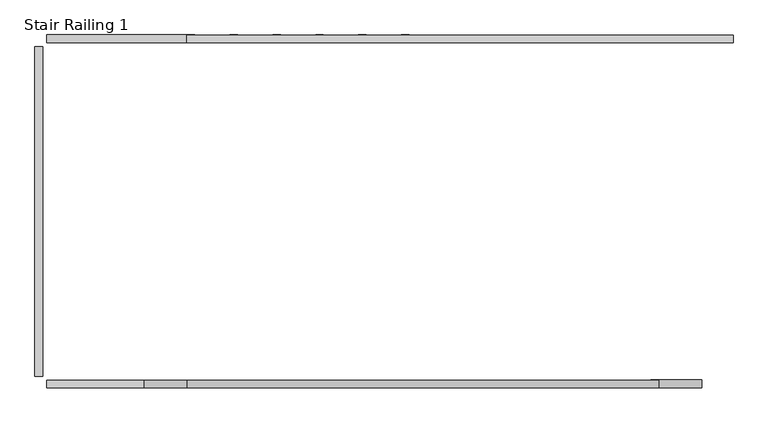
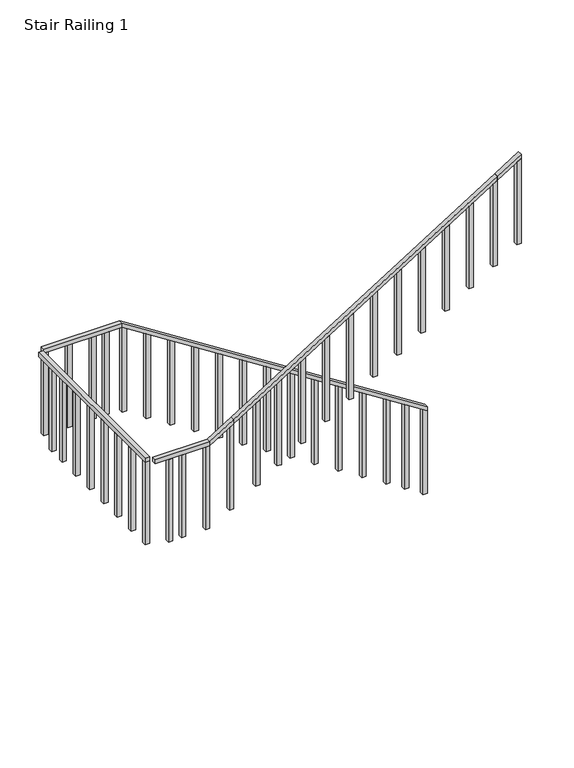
"""IFC4 building model written with IfcOpenShell, lengths in millimetres: railing geometry, Stair Railing 1."""

from ifc_helpers import new_model, si_unit, frame, origin, place, context, project, spatial, polyline, outline, extrude, source, transform, mapped, element, save


def stair_railing_1_abf2b38f(model_context):
    return source(origin(), model_context, "Body", "SweptSolid", [
        extrude(outline(polyline([(9002.8888889, -65613.320296), (8952.0888889, -65613.320296), (6677.3777778, -62054.8461136), (6728.1777778, -62054.8461136), (9002.8888889, -65613.320296)])), frame((0.0, 33673.381749, 0.0), z_axis=(0.0, 1.0, 0.0), x_axis=(0.0, 0.0, 1.0)), (0.0, 0.0, 1.0), 50.8),
        extrude(outline(polyline([(6709.8510566, -62105.6461136), (5661.3777778, -62105.6461136), (5661.3777778, -62054.8461136), (6677.3777778, -62054.8461136), (6709.8510566, -62105.6461136)])), frame((0.0, 33673.381749, 0.0), z_axis=(0.0, 1.0, 0.0), x_axis=(0.0, 0.0, 1.0)), (0.0, 0.0, 1.0), 50.8),
        extrude(outline(polyline([(6848.6532872, -62322.7832048), (5800.1800084, -62322.7832048), (5800.1800084, -62271.9832048), (6816.1800084, -62271.9832048), (6848.6532872, -62322.7832048)])), frame((0.0, 33673.381749, 0.0), z_axis=(0.0, 1.0, 0.0), x_axis=(0.0, 0.0, 1.0)), (0.0, 0.0, 1.0), 50.8),
        extrude(outline(polyline([(6987.4555178, -62539.920296), (5938.9822389, -62539.920296), (5938.9822389, -62489.120296), (6954.9822389, -62489.120296), (6987.4555178, -62539.920296)])), frame((0.0, 33673.381749, 0.0), z_axis=(0.0, 1.0, 0.0), x_axis=(0.0, 0.0, 1.0)), (0.0, 0.0, 1.0), 50.8),
        extrude(outline(polyline([(7166.0585515, -62819.320296), (6117.5852727, -62819.320296), (6117.5852727, -62768.520296), (7133.5852727, -62768.520296), (7166.0585515, -62819.320296)])), frame((0.0, 33673.381749, 0.0), z_axis=(0.0, 1.0, 0.0), x_axis=(0.0, 0.0, 1.0)), (0.0, 0.0, 1.0), 50.8),
        extrude(outline(polyline([(7344.6615853, -63098.720296), (6296.1883064, -63098.720296), (6296.1883064, -63047.920296), (7312.1883064, -63047.920296), (7344.6615853, -63098.720296)])), frame((0.0, 33673.381749, 0.0), z_axis=(0.0, 1.0, 0.0), x_axis=(0.0, 0.0, 1.0)), (0.0, 0.0, 1.0), 50.8),
        extrude(outline(polyline([(7523.264619, -63378.120296), (6474.7913401, -63378.120296), (6474.7913401, -63327.320296), (7490.7913401, -63327.320296), (7523.264619, -63378.120296)])), frame((0.0, 33673.381749, 0.0), z_axis=(0.0, 1.0, 0.0), x_axis=(0.0, 0.0, 1.0)), (0.0, 0.0, 1.0), 50.8),
        extrude(outline(polyline([(7701.8676527, -63657.520296), (6653.3943739, -63657.520296), (6653.3943739, -63606.720296), (7669.3943739, -63606.720296), (7701.8676527, -63657.520296)])), frame((0.0, 33673.381749, 0.0), z_axis=(0.0, 1.0, 0.0), x_axis=(0.0, 0.0, 1.0)), (0.0, 0.0, 1.0), 50.8),
        extrude(outline(polyline([(7880.4706865, -63936.920296), (6831.9974076, -63936.920296), (6831.9974076, -63886.120296), (7847.9974076, -63886.120296), (7880.4706865, -63936.920296)])), frame((0.0, 33673.381749, 0.0), z_axis=(0.0, 1.0, 0.0), x_axis=(0.0, 0.0, 1.0)), (0.0, 0.0, 1.0), 50.8),
        extrude(outline(polyline([(8059.0737202, -64216.320296), (7010.6004413, -64216.320296), (7010.6004413, -64165.520296), (8026.6004413, -64165.520296), (8059.0737202, -64216.320296)])), frame((0.0, 33673.381749, 0.0), z_axis=(0.0, 1.0, 0.0), x_axis=(0.0, 0.0, 1.0)), (0.0, 0.0, 1.0), 50.8),
        extrude(outline(polyline([(8237.6767539, -64495.720296), (7189.2034751, -64495.720296), (7189.2034751, -64444.920296), (8205.2034751, -64444.920296), (8237.6767539, -64495.720296)])), frame((0.0, 33673.381749, 0.0), z_axis=(0.0, 1.0, 0.0), x_axis=(0.0, 0.0, 1.0)), (0.0, 0.0, 1.0), 50.8),
        extrude(outline(polyline([(8416.2797877, -64775.120296), (7367.8065088, -64775.120296), (7367.8065088, -64724.320296), (8383.8065088, -64724.320296), (8416.2797877, -64775.120296)])), frame((0.0, 33673.381749, 0.0), z_axis=(0.0, 1.0, 0.0), x_axis=(0.0, 0.0, 1.0)), (0.0, 0.0, 1.0), 50.8),
        extrude(outline(polyline([(8594.8828214, -65054.520296), (7546.4095426, -65054.520296), (7546.4095426, -65003.720296), (8562.4095426, -65003.720296), (8594.8828214, -65054.520296)])), frame((0.0, 33673.381749, 0.0), z_axis=(0.0, 1.0, 0.0), x_axis=(0.0, 0.0, 1.0)), (0.0, 0.0, 1.0), 50.8),
        extrude(outline(polyline([(8773.4858552, -65333.920296), (7725.0125763, -65333.920296), (7725.0125763, -65283.120296), (8741.0125763, -65283.120296), (8773.4858552, -65333.920296)])), frame((0.0, 33673.381749, 0.0), z_axis=(0.0, 1.0, 0.0), x_axis=(0.0, 0.0, 1.0)), (0.0, 0.0, 1.0), 50.8),
        extrude(outline(polyline([(8952.0888889, -65613.320296), (7903.61561, -65613.320296), (7903.61561, -65562.520296), (8919.61561, -65562.520296), (8952.0888889, -65613.320296)])), frame((0.0, 33673.381749, 0.0), z_axis=(0.0, 1.0, 0.0), x_axis=(0.0, 0.0, 1.0)), (0.0, 0.0, 1.0), 50.8),
        extrude(outline(polyline([(-66527.720296, 33673.381749), (-66527.720296, 33724.181749), (-65613.320296, 33724.181749), (-65613.320296, 33673.381749), (-66527.720296, 33673.381749)])), frame((0.0, 0.0, 8952.0888889), z_axis=(0.0, 0.0, 1.0), x_axis=(1.0, 0.0, 0.0)), (0.0, 0.0, 1.0), 50.8),
        extrude(outline(polyline([(-65765.720296, 33673.381749), (-65816.520296, 33673.381749), (-65816.520296, 33724.181749), (-65765.720296, 33724.181749), (-65765.720296, 33673.381749)])), frame((0.0, 0.0, 7936.0888889), z_axis=(0.0, 0.0, 1.0), x_axis=(1.0, 0.0, 0.0)), (0.0, 0.0, 1.0), 1016.0),
        extrude(outline(polyline([(-65918.120296, 33673.381749), (-65968.920296, 33673.381749), (-65968.920296, 33724.181749), (-65918.120296, 33724.181749), (-65918.120296, 33673.381749)])), frame((0.0, 0.0, 7936.0888889), z_axis=(0.0, 0.0, 1.0), x_axis=(1.0, 0.0, 0.0)), (0.0, 0.0, 1.0), 1016.0),
        extrude(outline(polyline([(-66197.520296, 33673.381749), (-66248.320296, 33673.381749), (-66248.320296, 33724.181749), (-66197.520296, 33724.181749), (-66197.520296, 33673.381749)])), frame((0.0, 0.0, 7936.0888889), z_axis=(0.0, 0.0, 1.0), x_axis=(1.0, 0.0, 0.0)), (0.0, 0.0, 1.0), 1016.0),
        extrude(outline(polyline([(-66476.920296, 33673.381749), (-66527.720296, 33673.381749), (-66527.720296, 33724.181749), (-66476.920296, 33724.181749), (-66476.920296, 33673.381749)])), frame((0.0, 0.0, 7936.0888889), z_axis=(0.0, 0.0, 1.0), x_axis=(1.0, 0.0, 0.0)), (0.0, 0.0, 1.0), 1016.0),
        extrude(outline(polyline([(-66553.120296, 31497.8982705), (-66603.920296, 31497.8982705), (-66603.920296, 33647.981749), (-66553.120296, 33647.981749), (-66553.120296, 31497.8982705)])), frame((0.0, 0.0, 8952.0888889), z_axis=(0.0, 0.0, 1.0), x_axis=(1.0, 0.0, 0.0)), (0.0, 0.0, 1.0), 50.8),
        extrude(outline(polyline([(-66553.120296, 33436.5400097), (-66553.120296, 33385.7400097), (-66603.920296, 33385.7400097), (-66603.920296, 33436.5400097), (-66553.120296, 33436.5400097)])), frame((0.0, 0.0, 7936.0888889), z_axis=(0.0, 0.0, 1.0), x_axis=(1.0, 0.0, 0.0)), (0.0, 0.0, 1.0), 1016.0),
        extrude(outline(polyline([(-66553.120296, 33225.0982705), (-66553.120296, 33174.2982705), (-66603.920296, 33174.2982705), (-66603.920296, 33225.0982705), (-66553.120296, 33225.0982705)])), frame((0.0, 0.0, 7936.0888889), z_axis=(0.0, 0.0, 1.0), x_axis=(1.0, 0.0, 0.0)), (0.0, 0.0, 1.0), 1016.0),
        extrude(outline(polyline([(-66553.120296, 32945.6982705), (-66553.120296, 32894.8982705), (-66603.920296, 32894.8982705), (-66603.920296, 32945.6982705), (-66553.120296, 32945.6982705)])), frame((0.0, 0.0, 7936.0888889), z_axis=(0.0, 0.0, 1.0), x_axis=(1.0, 0.0, 0.0)), (0.0, 0.0, 1.0), 1016.0),
        extrude(outline(polyline([(-66553.120296, 32666.2982705), (-66553.120296, 32615.4982705), (-66603.920296, 32615.4982705), (-66603.920296, 32666.2982705), (-66553.120296, 32666.2982705)])), frame((0.0, 0.0, 7936.0888889), z_axis=(0.0, 0.0, 1.0), x_axis=(1.0, 0.0, 0.0)), (0.0, 0.0, 1.0), 1016.0),
        extrude(outline(polyline([(-66553.120296, 32386.8982705), (-66553.120296, 32336.0982705), (-66603.920296, 32336.0982705), (-66603.920296, 32386.8982705), (-66553.120296, 32386.8982705)])), frame((0.0, 0.0, 7936.0888889), z_axis=(0.0, 0.0, 1.0), x_axis=(1.0, 0.0, 0.0)), (0.0, 0.0, 1.0), 1016.0),
        extrude(outline(polyline([(-66553.120296, 32107.4982705), (-66553.120296, 32056.6982705), (-66603.920296, 32056.6982705), (-66603.920296, 32107.4982705), (-66553.120296, 32107.4982705)])), frame((0.0, 0.0, 7936.0888889), z_axis=(0.0, 0.0, 1.0), x_axis=(1.0, 0.0, 0.0)), (0.0, 0.0, 1.0), 1016.0),
        extrude(outline(polyline([(-66553.120296, 31828.0982705), (-66553.120296, 31777.2982705), (-66603.920296, 31777.2982705), (-66603.920296, 31828.0982705), (-66553.120296, 31828.0982705)])), frame((0.0, 0.0, 7936.0888889), z_axis=(0.0, 0.0, 1.0), x_axis=(1.0, 0.0, 0.0)), (0.0, 0.0, 1.0), 1016.0),
        extrude(outline(polyline([(-66553.120296, 31548.6982705), (-66553.120296, 31497.8982705), (-66603.920296, 31497.8982705), (-66603.920296, 31548.6982705), (-66553.120296, 31548.6982705)])), frame((0.0, 0.0, 7936.0888889), z_axis=(0.0, 0.0, 1.0), x_axis=(1.0, 0.0, 0.0)), (0.0, 0.0, 1.0), 1016.0),
        extrude(outline(polyline([(-65892.720296, 31472.4982705), (-65892.720296, 31421.6982705), (-66527.720296, 31421.6982705), (-66527.720296, 31472.4982705), (-65892.720296, 31472.4982705)])), frame((0.0, 0.0, 8952.0888889), z_axis=(0.0, 0.0, 1.0), x_axis=(1.0, 0.0, 0.0)), (0.0, 0.0, 1.0), 50.8),
        extrude(outline(polyline([(-66375.320296, 31472.4982705), (-66324.520296, 31472.4982705), (-66324.520296, 31421.6982705), (-66375.320296, 31421.6982705), (-66375.320296, 31472.4982705)])), frame((0.0, 0.0, 7936.0888889), z_axis=(0.0, 0.0, 1.0), x_axis=(1.0, 0.0, 0.0)), (0.0, 0.0, 1.0), 1016.0),
        extrude(outline(polyline([(-66222.920296, 31472.4982705), (-66172.120296, 31472.4982705), (-66172.120296, 31421.6982705), (-66222.920296, 31421.6982705), (-66222.920296, 31472.4982705)])), frame((0.0, 0.0, 7936.0888889), z_axis=(0.0, 0.0, 1.0), x_axis=(1.0, 0.0, 0.0)), (0.0, 0.0, 1.0), 1016.0),
        extrude(outline(polyline([(-65943.520296, 31472.4982705), (-65892.720296, 31472.4982705), (-65892.720296, 31421.6982705), (-65943.520296, 31421.6982705), (-65943.520296, 31472.4982705)])), frame((0.0, 0.0, 7936.0888889), z_axis=(0.0, 0.0, 1.0), x_axis=(1.0, 0.0, 0.0)), (0.0, 0.0, 1.0), 1016.0),
        extrude(outline(polyline([(9127.0666667, -65613.320296), (9177.8666667, -65613.320296), (9002.8888889, -65892.720296), (8952.0888889, -65892.720296), (9127.0666667, -65613.320296)])), frame((0.0, 31421.6982705, 0.0), z_axis=(0.0, 1.0, 0.0), x_axis=(0.0, 0.0, 1.0)), (0.0, 0.0, 1.0), 50.8),
        extrude(outline(polyline([(9095.2525253, -65664.120296), (8079.2525253, -65664.120296), (8079.2525253, -65613.320296), (9127.0666667, -65613.320296), (9095.2525253, -65664.120296)])), frame((0.0, 31421.6982705, 0.0), z_axis=(0.0, 1.0, 0.0), x_axis=(0.0, 0.0, 1.0)), (0.0, 0.0, 1.0), 50.8),
        extrude(outline(polyline([(11051.8222222, -62539.920296), (11102.6222222, -62539.920296), (9177.8666667, -65613.320296), (9127.0666667, -65613.320296), (11051.8222222, -62539.920296)])), frame((0.0, 31421.6982705, 0.0), z_axis=(0.0, 1.0, 0.0), x_axis=(0.0, 0.0, 1.0)), (0.0, 0.0, 1.0), 50.8),
        extrude(outline(polyline([(9286.1373737, -65359.320296), (8270.1373737, -65359.320296), (8270.1373737, -65308.520296), (9317.9515152, -65308.520296), (9286.1373737, -65359.320296)])), frame((0.0, 31421.6982705, 0.0), z_axis=(0.0, 1.0, 0.0), x_axis=(0.0, 0.0, 1.0)), (0.0, 0.0, 1.0), 50.8),
        extrude(outline(polyline([(9445.2080808, -65105.320296), (8429.2080808, -65105.320296), (8429.2080808, -65054.520296), (9477.0222222, -65054.520296), (9445.2080808, -65105.320296)])), frame((0.0, 31421.6982705, 0.0), z_axis=(0.0, 1.0, 0.0), x_axis=(0.0, 0.0, 1.0)), (0.0, 0.0, 1.0), 50.8),
        extrude(outline(polyline([(9620.1858586, -64825.920296), (8604.1858586, -64825.920296), (8604.1858586, -64775.120296), (9652.0, -64775.120296), (9620.1858586, -64825.920296)])), frame((0.0, 31421.6982705, 0.0), z_axis=(0.0, 1.0, 0.0), x_axis=(0.0, 0.0, 1.0)), (0.0, 0.0, 1.0), 50.8),
        extrude(outline(polyline([(9795.1636364, -64546.520296), (8779.1636364, -64546.520296), (8779.1636364, -64495.720296), (9826.9777778, -64495.720296), (9795.1636364, -64546.520296)])), frame((0.0, 31421.6982705, 0.0), z_axis=(0.0, 1.0, 0.0), x_axis=(0.0, 0.0, 1.0)), (0.0, 0.0, 1.0), 50.8),
        extrude(outline(polyline([(9970.1414141, -64267.120296), (8954.1414141, -64267.120296), (8954.1414141, -64216.320296), (10001.9555556, -64216.320296), (9970.1414141, -64267.120296)])), frame((0.0, 31421.6982705, 0.0), z_axis=(0.0, 1.0, 0.0), x_axis=(0.0, 0.0, 1.0)), (0.0, 0.0, 1.0), 50.8),
        extrude(outline(polyline([(10145.1191919, -63987.720296), (9129.1191919, -63987.720296), (9129.1191919, -63936.920296), (10176.9333333, -63936.920296), (10145.1191919, -63987.720296)])), frame((0.0, 31421.6982705, 0.0), z_axis=(0.0, 1.0, 0.0), x_axis=(0.0, 0.0, 1.0)), (0.0, 0.0, 1.0), 50.8),
        extrude(outline(polyline([(10320.0969697, -63708.320296), (9304.0969697, -63708.320296), (9304.0969697, -63657.520296), (10351.9111111, -63657.520296), (10320.0969697, -63708.320296)])), frame((0.0, 31421.6982705, 0.0), z_axis=(0.0, 1.0, 0.0), x_axis=(0.0, 0.0, 1.0)), (0.0, 0.0, 1.0), 50.8),
        extrude(outline(polyline([(10495.0747475, -63428.920296), (9479.0747475, -63428.920296), (9479.0747475, -63378.120296), (10526.8888889, -63378.120296), (10495.0747475, -63428.920296)])), frame((0.0, 31421.6982705, 0.0), z_axis=(0.0, 1.0, 0.0), x_axis=(0.0, 0.0, 1.0)), (0.0, 0.0, 1.0), 50.8),
        extrude(outline(polyline([(10670.0525253, -63149.520296), (9654.0525253, -63149.520296), (9654.0525253, -63098.720296), (10701.8666667, -63098.720296), (10670.0525253, -63149.520296)])), frame((0.0, 31421.6982705, 0.0), z_axis=(0.0, 1.0, 0.0), x_axis=(0.0, 0.0, 1.0)), (0.0, 0.0, 1.0), 50.8),
        extrude(outline(polyline([(10845.030303, -62870.120296), (9829.030303, -62870.120296), (9829.030303, -62819.320296), (10876.8444444, -62819.320296), (10845.030303, -62870.120296)])), frame((0.0, 31421.6982705, 0.0), z_axis=(0.0, 1.0, 0.0), x_axis=(0.0, 0.0, 1.0)), (0.0, 0.0, 1.0), 50.8),
        extrude(outline(polyline([(11020.0080808, -62590.720296), (10004.0080808, -62590.720296), (10004.0080808, -62539.920296), (11051.8222222, -62539.920296), (11020.0080808, -62590.720296)])), frame((0.0, 31421.6982705, 0.0), z_axis=(0.0, 1.0, 0.0), x_axis=(0.0, 0.0, 1.0)), (0.0, 0.0, 1.0), 50.8),
        extrude(outline(polyline([(11226.8, -62260.520296), (11277.6, -62260.520296), (11102.6222222, -62539.920296), (11051.8222222, -62539.920296), (11226.8, -62260.520296)])), frame((0.0, 31421.6982705, 0.0), z_axis=(0.0, 1.0, 0.0), x_axis=(0.0, 0.0, 1.0)), (0.0, 0.0, 1.0), 50.8),
        extrude(outline(polyline([(11194.9858586, -62311.320296), (10178.9858586, -62311.320296), (10178.9858586, -62260.520296), (11226.8, -62260.520296), (11194.9858586, -62311.320296)])), frame((0.0, 31421.6982705, 0.0), z_axis=(0.0, 1.0, 0.0), x_axis=(0.0, 0.0, 1.0)), (0.0, 0.0, 1.0), 50.8),
    ])


if __name__ == "__main__":
    model = new_model("IFC4")
    model_context = context("Model", 3, world=origin())
    ifc_project = project(units=[si_unit("LENGTHUNIT", "METRE", prefix="MILLI")], contexts=[model_context])
    site = spatial("IfcSite", under=ifc_project)
    building = spatial("IfcBuilding", under=site)
    placement = place(None, origin())
    stair_railing_1_shape = stair_railing_1_abf2b38f(model_context)
    element("IfcRailing", 1, ObjectType="Stair Railing 1", at=placement, inside=building, context=model_context, shape_type="MappedRepresentation", body=[
        mapped(stair_railing_1_shape, transform((0.0, 0.0, 0.0), x_axis=(1.0, 0.0, 0.0), y_axis=(0.0, 1.0, 0.0), z_axis=(0.0, 0.0, 1.0))),
    ])
    save(model, "model.ifc")
